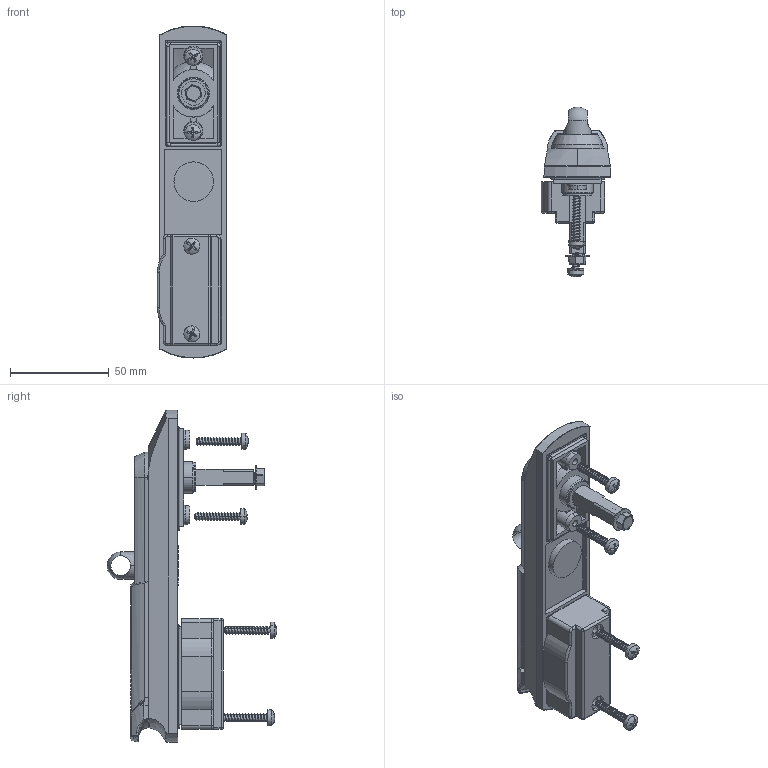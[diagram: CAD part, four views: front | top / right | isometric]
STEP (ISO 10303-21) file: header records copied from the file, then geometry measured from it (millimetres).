
FILE_DESCRIPTION (( 'STEP AP214' ), '1' );
FILE_NAME ('RS710-U.STEP', '2010-02-25T18:05:04', ( '£ukaszC' ), ( '' ), 'SwSTEP 2.0', 'SolidWorks 2008', '' );
FILE_SCHEMA (( 'AUTOMOTIVE_DESIGN' ));
Length unit declared in the file: millimetre
Products named in the file (14): O-RING 42 x 1,5_Domyœlna; 1B.RS710-U.02.01.00_Domyœlna; 1B.RS700-U.02.04.00_Domyœlna; 1B.RS710-U.01.01.00_Domyœlna; 1B.RS300.01.05.00_Domyœlna; 1B.RS700.01.02.00_Domyœlna; 1B.RS100.01.03.00_Domyœlna; 1B.RS100.01.04.00_Domyœlna; O-RING 12x2_Domyœlna; M6 x 22_Domyœlna; RS710-U; Wkrêt 4,1 x 23_Domyœlna; 1B.RS300.02.02.00_Domyœlna; 1B.RS700.01.07.00_Domyœlna
Assembly tree (17 placements, depth 2):
  RS710-U
    M6 x 22_Domyœlna
    O-RING 12x2_Domyœlna
    1B.RS710-U.02.01.00_Domyœlna
    1B.RS700-U.02.04.00_Domyœlna
    Wkrêt 4,1 x 23_Domyœlna  x4
    1B.RS100.01.04.00_Domyœlna
    1B.RS700.01.07.00_Domyœlna
    1B.RS300.01.05.00_Domyœlna
    1B.RS710-U.01.01.00_Domyœlna
    1B.RS100.01.03.00_Domyœlna
    O-RING 42 x 1,5_Domyœlna  x2
    1B.RS300.02.02.00_Domyœlna
    1B.RS700.01.02.00_Domyœlna
Bounding box: 35.2 x 85.8 x 167.69 mm (x, y, z)
Volume: 97039 mm3; surface area: 64986.1 mm2
Topology: 17 solids, 17 shells, 1028 faces, 2703 edges, 1692 vertices
Faces by surface type: cylinder 414, plane 348, bspline 135, cone 64, torus 38, sphere 29
Entity records: 38716 total; most frequent: CARTESIAN_POINT 19541, ORIENTED_EDGE 4142, DIRECTION 3385, EDGE_CURVE 2071, VERTEX_POINT 1309, AXIS2_PLACEMENT_3D 1265, VECTOR 855, LINE 855
